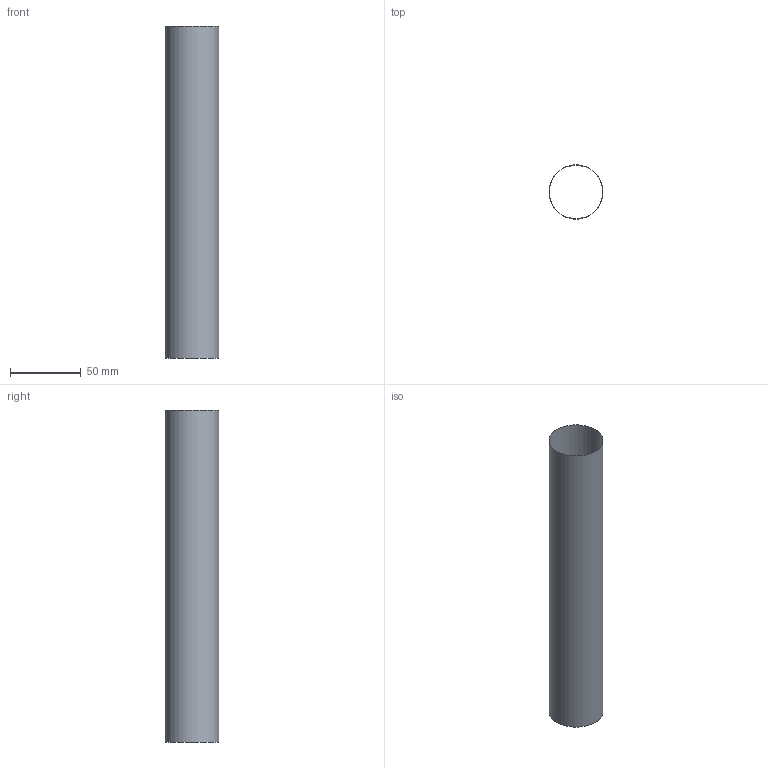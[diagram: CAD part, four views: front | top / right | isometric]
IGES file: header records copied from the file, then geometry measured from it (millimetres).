
Start section: SolidWorks IGES file using analytic representation for surfaces
Global section: file name: D:\4th Axis CNC Milling Teacher Training\Projects\Project 3\4th Axis Project 3.IGS; native system: SolidWorks 2015; preprocessor: SolidWorks 2015; author: dwatson; date: 160615.091642; units: inch
Bounding box: 38.1 x 38.1 x 234.95 mm (x, y, z)
Surface area: 28122.3 mm2 (no closed solid volume)
Topology: 0 solids, 0 shells, 1 faces, 17 edges, 30 vertices
Faces by surface type: revolution 1
